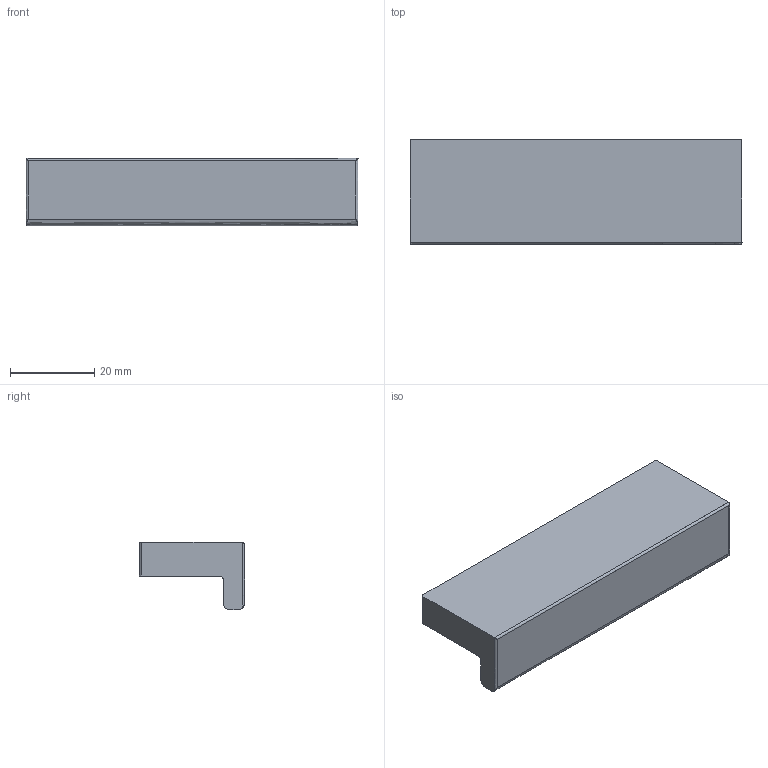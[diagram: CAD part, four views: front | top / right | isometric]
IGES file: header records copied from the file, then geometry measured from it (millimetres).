
Start section: Data from Parasolid IGES Translator 15.0.47, Copyright(c) 2006 Siemens P LM Software. All Rights Reserved.
Global section: file name: 9204195.igs; native system:  By UGS Corp.; preprocessor: XPlus GENERIC/IGES 3.0; author: Noname; organization: Noname; date: 20151204.112608; units: millimetre
Bounding box: 79.02 x 25 x 16.01 mm (x, y, z)
Surface area: 7045 mm2 (no closed solid volume)
Topology: 0 solids, 0 shells, 20 faces, 92 edges, 90 vertices
Faces by surface type: extrusion 10, revolution 10
